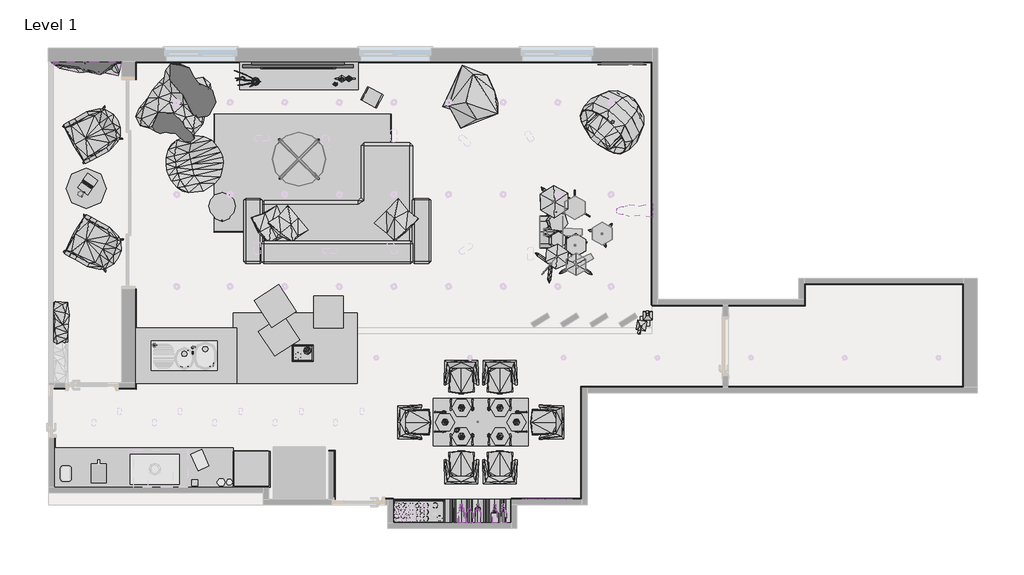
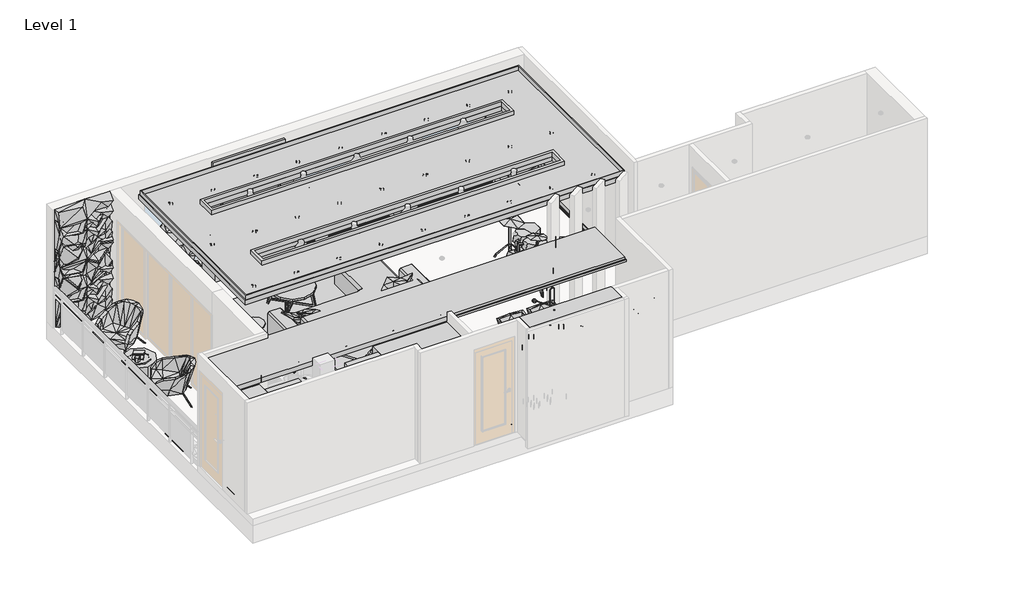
# One storey, part 3 of 3: 91 geographic elements, 5 proxies.
"""IFC4 building model written with IfcOpenShell, lengths in millimetres."""

from ifc_helpers import new_model, si_unit, origin, place, context, project, spatial, transform, mapped, element, save
from components import generic_models_dc2893ee, generic_models_1_generic_models_1_19b766ac, generic_models_2_generic_models_2_30429d09, generic_models_3_generic_models_3_4cce19c5, generic_models_4_generic_models_4_03122b29, generic_models_4_generic_models_4_c4c8f049, geographic_element_b0080944, geographic_element_7c65a5d7, geographic_element_9f73c0b1, geographic_element_5908e057, geographic_element_2652b80d, geographic_element_6bdd7eda, geographic_element_8d8a67f7, geographic_element_9b245b1b, geographic_element_af767891, geographic_element_8b343528, geographic_element_de8e18e4, geographic_element_906ff1fe, geographic_element_56111ee9, geographic_element_a9c4541f, geographic_element_ae85cb65, geographic_element_bdc61dde, geographic_element_5743c0c4, enscape_assetdefinition_armchair_040_enscape_assetdefinition_4bf14610, enscape_assetdefinition_armchair_052_outdoor_enscape_f294b56b, enscape_assetdefinition_armchair_052_outdoor_enscape_d5c26a59, enscape_assetdefinition_armchair_053_enscape_assetdefinition_fb0e28e1, enscape_assetdefinition_book_013_open_enscape_fd92b1af, enscape_assetdefinition_bottle_005_wine_enscape_f84a86c7, enscape_assetdefinition_bottle_006_wine_enscape_f008a982, enscape_assetdefinition_bottle_007_enscape_assetdefinition_5efa946b, enscape_assetdefinition_bottle_009_enscape_assetdefinition_91462ea6, enscape_assetdefinition_bottle_010_enscape_assetdefinition_ed5744ff, enscape_assetdefinition_chair_034_enscape_assetdefinition_23db250a, enscape_assetdefinition_chair_034_enscape_assetdefinition_81589c5b, enscape_assetdefinition_cup_002_coffee_enscape_aa947409, enscape_assetdefinition_faucet_005_enscape_assetdefinition_79bf5e93, enscape_assetdefinition_food_029_pizza_box_enscape_38934f0b, enscape_assetdefinition_high_stool_015_enscape_db5fdf95, enscape_assetdefinition_instrument_003_drum_set_enscape_302b556b, enscape_assetdefinition_napkin_001_folded_enscape_1bf4be49, enscape_assetdefinition_napkin_001_folded_enscape_e3453064, enscape_assetdefinition_pendant_lamp_017_enscape_30fa210a, enscape_assetdefinition_photo_grid_001_enscape_8e951b4d, enscape_assetdefinition_plate_002_flat_enscape_c81c6526, enscape_assetdefinition_plate_002_flat_enscape_671f95ad, enscape_assetdefinition_rug_008_enscape_assetdefinition_rug_9687f430, enscape_assetdefinition_sideboard_029_enscape_7678e0aa, enscape_assetdefinition_soap_dispenser_004_enscape_f50e4718, enscape_assetdefinition_sofa_021_enscape_assetdefinition_05d71fce, enscape_assetdefinition_speaker_010_enscape_assetdefinition_e37c3e36, enscape_assetdefinition_table_006_enscape_assetdefinition_bb6dfc44, enscape_assetdefinition_table_038_enscape_assetdefinition_902f3cf7, enscape_assetdefinition_table_053_outdoor_enscape_c4f458b2, enscape_assetdefinition_table_060_enscape_assetdefinition_db9969bd

model = new_model("IFC4")

# Units and contexts
model_context = context("Model", 3, world=origin())
ifc_project = project(units=[si_unit("LENGTHUNIT", "METRE", prefix="MILLI")], contexts=[model_context])

# Site, building, storey
site = spatial("IfcSite", under=ifc_project)
building = spatial("IfcBuilding", under=site)
storey = spatial("IfcBuildingStorey", under=building, Name="Level 1", Elevation=0.0)

# Proxies
placement = place(None, origin())
generic_models_shape = generic_models_dc2893ee(model_context)
element("IfcBuildingElementProxy", 1, Name="Samsung_C8000_UN55C8000_55_3D_LED_10171 : Samsung_C8000_UN55C8000_55_3D_LED_10171", ObjectType="Samsung_C8000_UN55C8000_55_3D_LED_10171 : Samsung_C8000_UN55C8000_55_3D_LED_10171", at=placement, inside=storey, context=model_context, shape_type="MappedRepresentation", body=[
    mapped(generic_models_shape, transform((-3725.6825303, 4855.5879527, 1050.0), x_axis=(1.0, 0.0, 0.0), y_axis=(0.0, 1.0, 0.0), z_axis=(0.0, 0.0, 1.0))),
])
generic_models_1_generic_models_1_shape = generic_models_1_generic_models_1_19b766ac(model_context)
element("IfcBuildingElementProxy", 2, Name="Generic Models 1 : Generic Models 1", ObjectType="Generic Models 1 : Generic Models 1", at=placement, inside=storey, context=model_context, shape_type="MappedRepresentation", body=[
    mapped(generic_models_1_generic_models_1_shape, transform((0.0, 0.0, 0.0), x_axis=(1.0, 0.0, 0.0), y_axis=(0.0, 1.0, 0.0), z_axis=(0.0, 0.0, 1.0))),
])
generic_models_2_generic_models_2_shape = generic_models_2_generic_models_2_30429d09(model_context)
element("IfcBuildingElementProxy", 3, Name="Generic Models 2 : Generic Models 2", ObjectType="Generic Models 2 : Generic Models 2", at=placement, inside=storey, context=model_context, shape_type="MappedRepresentation", body=[
    mapped(generic_models_2_generic_models_2_shape, transform((0.0, 0.0, 0.0), x_axis=(1.0, 0.0, 0.0), y_axis=(0.0, 1.0, 0.0), z_axis=(0.0, 0.0, 1.0))),
])
generic_models_3_generic_models_3_shape = generic_models_3_generic_models_3_4cce19c5(model_context)
element("IfcBuildingElementProxy", 4, Name="Generic Models 3 : Generic Models 3", ObjectType="Generic Models 3 : Generic Models 3", at=placement, inside=storey, context=model_context, shape_type="MappedRepresentation", body=[
    mapped(generic_models_3_generic_models_3_shape, transform((0.0, 0.0, 0.0), x_axis=(1.0, 0.0, 0.0), y_axis=(0.0, 1.0, 0.0), z_axis=(0.0, 0.0, 1.0))),
])
generic_models_4_generic_models_4_shape = generic_models_4_generic_models_4_03122b29(model_context)
generic_models_4_generic_models_4_2_shape = generic_models_4_generic_models_4_c4c8f049(model_context)
element("IfcBuildingElementProxy", 5, Name="Generic Models 4 : Generic Models 4", ObjectType="Generic Models 4 : Generic Models 4", at=placement, inside=storey, context=model_context, shape_type="MappedRepresentation", body=[
    mapped(generic_models_4_generic_models_4_shape, transform((0.0, 0.0, 0.0), x_axis=(1.0, 0.0, 0.0), y_axis=(0.0, 1.0, 0.0), z_axis=(0.0, 0.0, 1.0))),
    mapped(generic_models_4_generic_models_4_2_shape, transform((0.0, 0.0, 0.0), x_axis=(1.0, 0.0, 0.0), y_axis=(0.0, 1.0, 0.0), z_axis=(0.0, 0.0, 1.0))),
])

# Geographic elements
geographic_element_shape = geographic_element_b0080944(model_context)
element("IfcGeographicElement", 6, ObjectType="Enscape AssetDefinition - Unicorn Papertrophy : Enscape AssetDefinition - Unicorn Papertrophy", at=placement, inside=storey, context=model_context, shape_type="MappedRepresentation", body=[
    mapped(geographic_element_shape, transform((2263.5553875, 2435.593125, 1868.1129217), x_axis=(0.0, -1.0, 0.0), y_axis=(1.0, 0.0, 0.0), z_axis=(0.0, 0.0, 1.0))),
])
geographic_element_2_shape = geographic_element_7c65a5d7(model_context)
element("IfcGeographicElement", 7, ObjectType="Enscape AssetDefinition - Candle Tray 002 : Enscape AssetDefinition - Candle Tray 002", at=placement, inside=storey, context=model_context, shape_type="MappedRepresentation", body=[
    mapped(geographic_element_2_shape, transform((-3643.9899912, 23.2295601, 750.0), x_axis=(1.0, 0.0, 0.0), y_axis=(0.0, 1.0, 0.0), z_axis=(0.0, 0.0, 1.0))),
])
geographic_element_3_shape = geographic_element_9f73c0b1(model_context)
element("IfcGeographicElement", 8, ObjectType="Enscape AssetDefinition - Cutlery 004 Spoon : Enscape AssetDefinition - Cutlery 004 Spoon", at=placement, inside=storey, context=model_context, shape_type="MappedRepresentation", body=[
    mapped(geographic_element_3_shape, transform((-778.7414771, -1435.411455, 720.0), x_axis=(1.0, 0.0, 0.0), y_axis=(0.0, 1.0, 0.0), z_axis=(0.0, 0.0, 1.0))),
])
element("IfcGeographicElement", 9, ObjectType="Enscape AssetDefinition - Cutlery 004 Spoon : Enscape AssetDefinition - Cutlery 004 Spoon", at=placement, inside=storey, context=model_context, shape_type="MappedRepresentation", body=[
    mapped(geographic_element_3_shape, transform((-500.1189324, -851.7479681, 720.0), x_axis=(-1.0, 0.0, 0.0), y_axis=(0.0, -1.0, 0.0), z_axis=(0.0, 0.0, 1.0))),
])
element("IfcGeographicElement", 10, ObjectType="Enscape AssetDefinition - Cutlery 004 Spoon : Enscape AssetDefinition - Cutlery 004 Spoon", at=placement, inside=storey, context=model_context, shape_type="MappedRepresentation", body=[
    mapped(geographic_element_3_shape, transform((-1324.9476874, -974.0471901, 720.0), x_axis=(0.0, -1.0, 0.0), y_axis=(1.0, 0.0, 0.0), z_axis=(0.0, 0.0, 1.0))),
])
geographic_element_4_shape = geographic_element_5908e057(model_context)
element("IfcGeographicElement", 11, ObjectType="Enscape AssetDefinition - Cutlery 001 Fork : Enscape AssetDefinition - Cutlery 001 Fork", at=placement, inside=storey, context=model_context, shape_type="MappedRepresentation", body=[
    mapped(geographic_element_4_shape, transform((-1142.4476874, -1440.411455, 720.0), x_axis=(1.0, 0.0, 0.0), y_axis=(0.0, 1.0, 0.0), z_axis=(0.0, 0.0, 1.0))),
])
element("IfcGeographicElement", 12, ObjectType="Enscape AssetDefinition - Cutlery 001 Fork : Enscape AssetDefinition - Cutlery 001 Fork", at=placement, inside=storey, context=model_context, shape_type="MappedRepresentation", body=[
    mapped(geographic_element_4_shape, transform((-136.4127221, -846.7479681, 720.0), x_axis=(-1.0, 0.0, 0.0), y_axis=(0.0, -1.0, 0.0), z_axis=(0.0, 0.0, 1.0))),
])
element("IfcGeographicElement", 13, ObjectType="Enscape AssetDefinition - Cutlery 001 Fork : Enscape AssetDefinition - Cutlery 001 Fork", at=placement, inside=storey, context=model_context, shape_type="MappedRepresentation", body=[
    mapped(geographic_element_4_shape, transform((-1324.9476874, -1303.4525616, 720.0), x_axis=(0.0, -1.0, 0.0), y_axis=(1.0, 0.0, 0.0), z_axis=(0.0, 0.0, 1.0))),
])
geographic_element_5_shape = geographic_element_2652b80d(model_context)
element("IfcGeographicElement", 14, ObjectType="Enscape AssetDefinition - Decorative Goods 018 Swallow Birds : Enscape AssetDefinition - Decorative Goods 018 Swallow Birds", at=placement, inside=storey, context=model_context, shape_type="MappedRepresentation", body=[
    mapped(geographic_element_5_shape, transform((706.0100088, -2449.0471901, 1565.749496), x_axis=(-1.0, 0.0, 0.0), y_axis=(0.0, -1.0, 0.0), z_axis=(0.0, 0.0, 1.0))),
])
geographic_element_6_shape = geographic_element_6bdd7eda(model_context)
element("IfcGeographicElement", 15, ObjectType="Enscape AssetDefinition - Decorative Goods 018 Swallow Birds : Enscape AssetDefinition - Decorative Goods 018 Swallow Birds 2", at=placement, inside=storey, context=model_context, shape_type="MappedRepresentation", body=[
    mapped(geographic_element_6_shape, transform((326.0100088, -2449.0471901, 1241.461939), x_axis=(-1.0, 0.0, 0.0), y_axis=(0.0, -1.0, 0.0), z_axis=(0.0, 0.0, 1.0))),
])
geographic_element_7_shape = geographic_element_8d8a67f7(model_context)
element("IfcGeographicElement", 16, ObjectType="Enscape AssetDefinition - Cutlery 004 Spoon : Enscape AssetDefinition - Cutlery 004 Spoon", at=placement, inside=storey, context=model_context, shape_type="MappedRepresentation", body=[
    mapped(geographic_element_7_shape, transform((-500.1189324, -1435.411455, 720.0), x_axis=(-1.0, 0.0, 0.0), y_axis=(0.0, -1.0, 0.0), z_axis=(0.0, 0.0, 1.0))),
])
element("IfcGeographicElement", 17, ObjectType="Enscape AssetDefinition - Cutlery 004 Spoon : Enscape AssetDefinition - Cutlery 004 Spoon", at=placement, inside=storey, context=model_context, shape_type="MappedRepresentation", body=[
    mapped(geographic_element_7_shape, transform((-778.7414771, -851.7479681, 720.0), x_axis=(1.0, 0.0, 0.0), y_axis=(0.0, 1.0, 0.0), z_axis=(0.0, 0.0, 1.0))),
])
element("IfcGeographicElement", 18, ObjectType="Enscape AssetDefinition - Cutlery 004 Spoon : Enscape AssetDefinition - Cutlery 004 Spoon", at=placement, inside=storey, context=model_context, shape_type="MappedRepresentation", body=[
    mapped(geographic_element_7_shape, transform((46.0872779, -974.0471901, 720.0), x_axis=(0.0, -1.0, 0.0), y_axis=(1.0, 0.0, 0.0), z_axis=(0.0, 0.0, 1.0))),
])
geographic_element_8_shape = geographic_element_9b245b1b(model_context)
element("IfcGeographicElement", 19, ObjectType="Enscape AssetDefinition - Cutlery 001 Fork : Enscape AssetDefinition - Cutlery 001 Fork", at=placement, inside=storey, context=model_context, shape_type="MappedRepresentation", body=[
    mapped(geographic_element_8_shape, transform((-136.4127221, -1440.411455, 720.0), x_axis=(-1.0, 0.0, 0.0), y_axis=(0.0, -1.0, 0.0), z_axis=(0.0, 0.0, 1.0))),
])
element("IfcGeographicElement", 20, ObjectType="Enscape AssetDefinition - Cutlery 001 Fork : Enscape AssetDefinition - Cutlery 001 Fork", at=placement, inside=storey, context=model_context, shape_type="MappedRepresentation", body=[
    mapped(geographic_element_8_shape, transform((-1142.4476874, -846.7479681, 720.0), x_axis=(1.0, 0.0, 0.0), y_axis=(0.0, 1.0, 0.0), z_axis=(0.0, 0.0, 1.0))),
])
element("IfcGeographicElement", 21, ObjectType="Enscape AssetDefinition - Cutlery 001 Fork : Enscape AssetDefinition - Cutlery 001 Fork", at=placement, inside=storey, context=model_context, shape_type="MappedRepresentation", body=[
    mapped(geographic_element_8_shape, transform((46.0872779, -1303.4525616, 720.0), x_axis=(0.0, -1.0, 0.0), y_axis=(1.0, 0.0, 0.0), z_axis=(0.0, 0.0, 1.0))),
])
geographic_element_9_shape = geographic_element_af767891(model_context)
element("IfcGeographicElement", 22, ObjectType="Enscape AssetDefinition - Potted Plant 009 Mango Tree : Enscape AssetDefinition - Potted Plant 009 Mango Tree", at=placement, inside=storey, context=model_context, shape_type="MappedRepresentation", body=[
    mapped(geographic_element_9_shape, transform((-778.7414771, 4431.3550707, -150.0), x_axis=(1.0, 0.0, 0.0), y_axis=(0.0, 1.0, 0.0), z_axis=(0.0, 0.0, 1.0))),
])
geographic_element_10_shape = geographic_element_8b343528(model_context)
element("IfcGeographicElement", 23, ObjectType="Enscape AssetDefinition - Potted Plant 028 Peace Lily : Enscape AssetDefinition - Potted Plant 028 Peace Lily", at=placement, inside=storey, context=model_context, shape_type="MappedRepresentation", body=[
    mapped(geographic_element_10_shape, transform((-5710.3506851, 4241.7460502, -150.0), x_axis=(1.0, 0.0, 0.0), y_axis=(0.0, 1.0, 0.0), z_axis=(0.0, 0.0, 1.0))),
])
geographic_element_11_shape = geographic_element_de8e18e4(model_context)
element("IfcGeographicElement", 24, ObjectType="Enscape AssetDefinition - Decorative Goods 012 Cats : Enscape AssetDefinition - Decorative Goods 012 Cats", at=placement, inside=storey, context=model_context, shape_type="MappedRepresentation", body=[
    mapped(geographic_element_11_shape, transform((-2928.0997155, 4665.5879527, 400.0), x_axis=(1.0, 0.0, 0.0), y_axis=(0.0, 1.0, 0.0), z_axis=(0.0, 0.0, 1.0))),
])
geographic_element_12_shape = geographic_element_906ff1fe(model_context)
element("IfcGeographicElement", 25, ObjectType="Enscape AssetDefinition - Decorative Goods 030 Room Fragrance : Enscape AssetDefinition - Decorative Goods 030 Room Fragrance", at=placement, inside=storey, context=model_context, shape_type="MappedRepresentation", body=[
    mapped(geographic_element_12_shape, transform((-3091.1080184, 4570.5879527, 400.0), x_axis=(1.0, 0.0, 0.0), y_axis=(0.0, 1.0, 0.0), z_axis=(0.0, 0.0, 1.0))),
])
geographic_element_13_shape = geographic_element_56111ee9(model_context)
element("IfcGeographicElement", 26, ObjectType="Enscape AssetDefinition - Vase 002 Eucalyptus : Enscape AssetDefinition - Vase 002 Eucalyptus", at=placement, inside=storey, context=model_context, shape_type="MappedRepresentation", body=[
    mapped(geographic_element_13_shape, transform((-4444.8250642, 4620.5879527, 400.0), x_axis=(-1.0, 0.0, 0.0), y_axis=(0.0, -1.0, 0.0), z_axis=(0.0, 0.0, 1.0))),
])
geographic_element_14_shape = geographic_element_a9c4541f(model_context)
element("IfcGeographicElement", 27, ObjectType="Enscape AssetDefinition - Green Wall 001 English Laurel : Enscape AssetDefinition - Green Wall 001 English Laurel", at=placement, inside=storey, context=model_context, shape_type="MappedRepresentation", body=[
    mapped(geographic_element_14_shape, transform((-7304.8250642, 4955.5879527, 1350.3144574), x_axis=(1.0, 0.0, 0.0), y_axis=(0.0, 1.0, 0.0), z_axis=(0.0, 0.0, 1.0))),
])
element("IfcGeographicElement", 28, ObjectType="Enscape AssetDefinition - Green Wall 001 English Laurel : Enscape AssetDefinition - Green Wall 001 English Laurel", at=placement, inside=storey, context=model_context, shape_type="MappedRepresentation", body=[
    mapped(geographic_element_14_shape, transform((-7304.8250642, 4955.5879527, 450.3144574), x_axis=(1.0, 0.0, 0.0), y_axis=(0.0, 1.0, 0.0), z_axis=(0.0, 0.0, 1.0))),
])
element("IfcGeographicElement", 29, ObjectType="Enscape AssetDefinition - Green Wall 001 English Laurel : Enscape AssetDefinition - Green Wall 001 English Laurel", at=placement, inside=storey, context=model_context, shape_type="MappedRepresentation", body=[
    mapped(geographic_element_14_shape, transform((-7304.8250642, 4955.5879527, -189.6855426), x_axis=(1.0, 0.0, 0.0), y_axis=(0.0, 1.0, 0.0), z_axis=(0.0, 0.0, 1.0))),
])
element("IfcGeographicElement", 30, ObjectType="Enscape AssetDefinition - Green Wall 001 English Laurel : Enscape AssetDefinition - Green Wall 001 English Laurel", at=placement, inside=storey, context=model_context, shape_type="MappedRepresentation", body=[
    mapped(geographic_element_14_shape, transform((-7304.8250642, 4955.5879527, 1110.3144574), x_axis=(1.0, 0.0, 0.0), y_axis=(0.0, 1.0, 0.0), z_axis=(0.0, 0.0, 1.0))),
])
element("IfcGeographicElement", 31, ObjectType="Enscape AssetDefinition - Green Wall 001 English Laurel : Enscape AssetDefinition - Green Wall 001 English Laurel", at=placement, inside=storey, context=model_context, shape_type="MappedRepresentation", body=[
    mapped(geographic_element_14_shape, transform((-7304.8250642, 4955.5879527, 390.3144574), x_axis=(1.0, 0.0, 0.0), y_axis=(0.0, 1.0, 0.0), z_axis=(0.0, 0.0, 1.0))),
])
element("IfcGeographicElement", 32, ObjectType="Enscape AssetDefinition - Green Wall 001 English Laurel : Enscape AssetDefinition - Green Wall 001 English Laurel", at=placement, inside=storey, context=model_context, shape_type="MappedRepresentation", body=[
    mapped(geographic_element_14_shape, transform((-7304.8250642, 4955.5879527, -429.6855426), x_axis=(1.0, 0.0, 0.0), y_axis=(0.0, 1.0, 0.0), z_axis=(0.0, 0.0, 1.0))),
])
geographic_element_15_shape = geographic_element_ae85cb65(model_context)
element("IfcGeographicElement", 33, ObjectType="Enscape AssetDefinition - Bowl 007 Strawberry : Enscape AssetDefinition - Bowl 007 Strawberry", at=placement, inside=storey, context=model_context, shape_type="MappedRepresentation", body=[
    mapped(geographic_element_15_shape, transform((-3208.1177831, 553.2122382, 750.0), x_axis=(1.0, 0.0, 0.0), y_axis=(0.0, 1.0, 0.0), z_axis=(0.0, 0.0, 1.0))),
])
geographic_element_16_shape = geographic_element_bdc61dde(model_context)
element("IfcGeographicElement", 34, ObjectType="Enscape AssetDefinition - Potted Plant 099 Geranium Planter : Enscape AssetDefinition - Potted Plant 099 Geranium Planter", at=placement, inside=storey, context=model_context, shape_type="MappedRepresentation", body=[
    mapped(geographic_element_16_shape, transform((-7753.5491004, 539.3293876, -150.0), x_axis=(0.0, -1.0, 0.0), y_axis=(1.0, 0.0, 0.0), z_axis=(0.0, 0.0, 1.0))),
])
geographic_element_17_shape = geographic_element_5743c0c4(model_context)
element("IfcGeographicElement", 35, ObjectType="Enscape AssetDefinition - Umbrella Holder 001 : Enscape AssetDefinition - Umbrella Holder 001", at=placement, inside=storey, context=model_context, shape_type="MappedRepresentation", body=[
    mapped(geographic_element_17_shape, transform((2140.1720666, 566.2824486, -150.0), x_axis=(1.0, 0.0, 0.0), y_axis=(0.0, 1.0, 0.0), z_axis=(0.0, 0.0, 1.0))),
])
enscape_assetdefinition_armchair_040_enscape_assetdefinition_shape = enscape_assetdefinition_armchair_040_enscape_assetdefinition_4bf14610(model_context)
element("IfcGeographicElement", 36, ObjectType="Enscape AssetDefinition - Armchair 040 : Enscape AssetDefinition - Armchair 040", at=placement, inside=storey, context=model_context, shape_type="MappedRepresentation", body=[
    mapped(enscape_assetdefinition_armchair_040_enscape_assetdefinition_shape, transform((-5469.8250642, 3230.5879527, -150.0), x_axis=(-0.2235639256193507, 0.9746892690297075, 0.0), y_axis=(-0.9746892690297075, -0.2235639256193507, 0.0), z_axis=(0.0, 0.0, 1.0))),
])
enscape_assetdefinition_armchair_052_outdoor_enscape_shape = enscape_assetdefinition_armchair_052_outdoor_enscape_f294b56b(model_context)
element("IfcGeographicElement", 37, ObjectType="Enscape AssetDefinition - Armchair 052 Outdoor : Enscape AssetDefinition - Armchair 052 Outdoor", at=placement, inside=storey, context=model_context, shape_type="MappedRepresentation", body=[
    mapped(enscape_assetdefinition_armchair_052_outdoor_enscape_shape, transform((-7209.4839164, 3720.844669, -150.0), x_axis=(0.48480962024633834, -0.8746197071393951, 0.0), y_axis=(0.8746197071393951, 0.48480962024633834, 0.0), z_axis=(0.0, 0.0, 1.0))),
])
enscape_assetdefinition_armchair_052_outdoor_enscape_2_shape = enscape_assetdefinition_armchair_052_outdoor_enscape_d5c26a59(model_context)
element("IfcGeographicElement", 38, ObjectType="Enscape AssetDefinition - Armchair 052 Outdoor : Enscape AssetDefinition - Armchair 052 Outdoor", at=placement, inside=storey, context=model_context, shape_type="MappedRepresentation", body=[
    mapped(enscape_assetdefinition_armchair_052_outdoor_enscape_2_shape, transform((-7197.1722471, 1878.4382491, -150.0), x_axis=(0.48480962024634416, 0.8746197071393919, 0.0), y_axis=(-0.8746197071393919, 0.48480962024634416, 0.0), z_axis=(0.0, 0.0, 1.0))),
])
enscape_assetdefinition_armchair_053_enscape_assetdefinition_shape = enscape_assetdefinition_armchair_053_enscape_assetdefinition_fb0e28e1(model_context)
element("IfcGeographicElement", 39, ObjectType="Enscape AssetDefinition - Armchair 053 : Enscape AssetDefinition - Armchair 053", at=placement, inside=storey, context=model_context, shape_type="MappedRepresentation", body=[
    mapped(enscape_assetdefinition_armchair_053_enscape_assetdefinition_shape, transform((1589.7384878, 3934.1393956, 2350.0), x_axis=(0.7212263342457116, -0.6926994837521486, 0.0), y_axis=(0.6926994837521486, 0.7212263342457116, 0.0), z_axis=(0.0, 0.0, 1.0))),
])
enscape_assetdefinition_book_013_open_enscape_shape = enscape_assetdefinition_book_013_open_enscape_fd92b1af(model_context)
element("IfcGeographicElement", 40, ObjectType="Enscape AssetDefinition - Book 013 Open : Enscape AssetDefinition - Book 013 Open", at=placement, inside=storey, context=model_context, shape_type="MappedRepresentation", body=[
    mapped(enscape_assetdefinition_book_013_open_enscape_shape, transform((-7280.8087459, 2883.2721471, 250.7), x_axis=(0.5768810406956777, 0.8168281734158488, 0.0), y_axis=(-0.8168281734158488, 0.5768810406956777, 0.0), z_axis=(0.0, 0.0, 1.0))),
])
enscape_assetdefinition_bottle_005_wine_enscape_shape = enscape_assetdefinition_bottle_005_wine_enscape_f84a86c7(model_context)
element("IfcGeographicElement", 41, ObjectType="Enscape AssetDefinition - Bottle 005 Wine : Enscape AssetDefinition - Bottle 005 Wine", at=placement, inside=storey, context=model_context, shape_type="MappedRepresentation", body=[
    mapped(enscape_assetdefinition_bottle_005_wine_enscape_shape, transform((-966.8647247, -2849.0471901, 1654.9961457), x_axis=(1.0, 0.0, 0.0), y_axis=(0.0, 0.0, -1.0), z_axis=(0.0, 1.0, 0.0))),
])
element("IfcGeographicElement", 42, ObjectType="Enscape AssetDefinition - Bottle 005 Wine : Enscape AssetDefinition - Bottle 005 Wine", at=placement, inside=storey, context=model_context, shape_type="MappedRepresentation", body=[
    mapped(enscape_assetdefinition_bottle_005_wine_enscape_shape, transform((-401.7648667, -2849.0471901, 1371.501185), x_axis=(1.0, 0.0, 0.0), y_axis=(0.0, 0.0, -1.0), z_axis=(0.0, 1.0, 0.0))),
])
element("IfcGeographicElement", 43, ObjectType="Enscape AssetDefinition - Bottle 005 Wine : Enscape AssetDefinition - Bottle 005 Wine", at=placement, inside=storey, context=model_context, shape_type="MappedRepresentation", body=[
    mapped(enscape_assetdefinition_bottle_005_wine_enscape_shape, transform((-544.6503189, -2849.0471901, 948.5321996), x_axis=(1.0, 0.0, 0.0), y_axis=(0.0, 0.0, -1.0), z_axis=(0.0, 1.0, 0.0))),
])
element("IfcGeographicElement", 44, ObjectType="Enscape AssetDefinition - Bottle 005 Wine : Enscape AssetDefinition - Bottle 005 Wine", at=placement, inside=storey, context=model_context, shape_type="MappedRepresentation", body=[
    mapped(enscape_assetdefinition_bottle_005_wine_enscape_shape, transform((-258.9899912, -2849.0471901, 947.1802909), x_axis=(1.0, 0.0, 0.0), y_axis=(0.0, 0.0, -1.0), z_axis=(0.0, 1.0, 0.0))),
])
element("IfcGeographicElement", 45, ObjectType="Enscape AssetDefinition - Bottle 005 Wine : Enscape AssetDefinition - Bottle 005 Wine", at=placement, inside=storey, context=model_context, shape_type="MappedRepresentation", body=[
    mapped(enscape_assetdefinition_bottle_005_wine_enscape_shape, transform((-685.679136, -2849.0471901, 1652.7019983), x_axis=(1.0, 0.0, 0.0), y_axis=(0.0, 0.0, -1.0), z_axis=(0.0, 1.0, 0.0))),
])
element("IfcGeographicElement", 46, ObjectType="Enscape AssetDefinition - Bottle 005 Wine : Enscape AssetDefinition - Bottle 005 Wine", at=placement, inside=storey, context=model_context, shape_type="MappedRepresentation", body=[
    mapped(enscape_assetdefinition_bottle_005_wine_enscape_shape, transform((-403.9899912, -2849.0471901, 1933.332242), x_axis=(1.0, 0.0, 0.0), y_axis=(0.0, 0.0, -1.0), z_axis=(0.0, 1.0, 0.0))),
])
enscape_assetdefinition_bottle_006_wine_enscape_shape = enscape_assetdefinition_bottle_006_wine_enscape_f008a982(model_context)
element("IfcGeographicElement", 47, ObjectType="Enscape AssetDefinition - Bottle 006 Wine : Enscape AssetDefinition - Bottle 006 Wine", at=placement, inside=storey, context=model_context, shape_type="MappedRepresentation", body=[
    mapped(enscape_assetdefinition_bottle_006_wine_enscape_shape, transform((-684.7442867, -2849.0471901, 1373.2927249), x_axis=(1.0, 0.0, 0.0), y_axis=(0.0, 0.0, -1.0), z_axis=(0.0, 1.0, 0.0))),
])
element("IfcGeographicElement", 48, ObjectType="Enscape AssetDefinition - Bottle 006 Wine : Enscape AssetDefinition - Bottle 006 Wine", at=placement, inside=storey, context=model_context, shape_type="MappedRepresentation", body=[
    mapped(enscape_assetdefinition_bottle_006_wine_enscape_shape, transform((-825.2399912, -2849.0471901, 948.1439768), x_axis=(1.0, 0.0, 0.0), y_axis=(0.0, 0.0, -1.0), z_axis=(0.0, 1.0, 0.0))),
])
element("IfcGeographicElement", 49, ObjectType="Enscape AssetDefinition - Bottle 006 Wine : Enscape AssetDefinition - Bottle 006 Wine", at=placement, inside=storey, context=model_context, shape_type="MappedRepresentation", body=[
    mapped(enscape_assetdefinition_bottle_006_wine_enscape_shape, transform((-403.9899912, -2849.0471901, 809.5809135), x_axis=(1.0, 0.0, 0.0), y_axis=(0.0, 0.0, -1.0), z_axis=(0.0, 1.0, 0.0))),
])
enscape_assetdefinition_bottle_007_enscape_assetdefinition_shape = enscape_assetdefinition_bottle_007_enscape_assetdefinition_5efa946b(model_context)
element("IfcGeographicElement", 50, ObjectType="Enscape AssetDefinition - Bottle 007 : Enscape AssetDefinition - Bottle 007", at=placement, inside=storey, context=model_context, shape_type="MappedRepresentation", body=[
    mapped(enscape_assetdefinition_bottle_007_enscape_assetdefinition_shape, transform((-689.0928398, -2849.0471901, 815.6905332), x_axis=(1.0, 0.0, 0.0), y_axis=(0.0, 0.0, -1.0), z_axis=(0.0, 1.0, 0.0))),
])
element("IfcGeographicElement", 51, ObjectType="Enscape AssetDefinition - Bottle 007 : Enscape AssetDefinition - Bottle 007", at=placement, inside=storey, context=model_context, shape_type="MappedRepresentation", body=[
    mapped(enscape_assetdefinition_bottle_007_enscape_assetdefinition_shape, transform((-686.1189888, -2849.0471901, 1099.8610682), x_axis=(-1.0, 0.0, 0.0), y_axis=(0.0, 0.0, 1.0), z_axis=(0.0, 1.0, 0.0))),
])
element("IfcGeographicElement", 52, ObjectType="Enscape AssetDefinition - Bottle 007 : Enscape AssetDefinition - Bottle 007", at=placement, inside=storey, context=model_context, shape_type="MappedRepresentation", body=[
    mapped(enscape_assetdefinition_bottle_007_enscape_assetdefinition_shape, transform((-968.9899912, -2849.0471901, 1942.7777111), x_axis=(1.0, 0.0, 0.0), y_axis=(0.0, 0.0, -1.0), z_axis=(0.0, 1.0, 0.0))),
])
enscape_assetdefinition_bottle_009_enscape_assetdefinition_shape = enscape_assetdefinition_bottle_009_enscape_assetdefinition_91462ea6(model_context)
element("IfcGeographicElement", 53, ObjectType="Enscape AssetDefinition - Bottle 009 : Enscape AssetDefinition - Bottle 009", at=placement, inside=storey, context=model_context, shape_type="MappedRepresentation", body=[
    mapped(enscape_assetdefinition_bottle_009_enscape_assetdefinition_shape, transform((-402.0088814, -2849.0471901, 1126.4700058), x_axis=(1.0, 0.0, 0.0), y_axis=(0.0, 0.0, -1.0), z_axis=(0.0, 1.0, 0.0))),
])
element("IfcGeographicElement", 54, ObjectType="Enscape AssetDefinition - Bottle 009 : Enscape AssetDefinition - Bottle 009", at=placement, inside=storey, context=model_context, shape_type="MappedRepresentation", body=[
    mapped(enscape_assetdefinition_bottle_009_enscape_assetdefinition_shape, transform((-967.6943063, -2849.0471901, 1409.3127182), x_axis=(1.0, 0.0, 0.0), y_axis=(0.0, 0.0, -1.0), z_axis=(0.0, 1.0, 0.0))),
])
element("IfcGeographicElement", 55, ObjectType="Enscape AssetDefinition - Bottle 009 : Enscape AssetDefinition - Bottle 009", at=placement, inside=storey, context=model_context, shape_type="MappedRepresentation", body=[
    mapped(enscape_assetdefinition_bottle_009_enscape_assetdefinition_shape, transform((-260.5875251, -2849.0471901, 1550.7340745), x_axis=(1.0, 0.0, 0.0), y_axis=(0.0, 0.0, -1.0), z_axis=(0.0, 1.0, 0.0))),
])
element("IfcGeographicElement", 56, ObjectType="Enscape AssetDefinition - Bottle 009 : Enscape AssetDefinition - Bottle 009", at=placement, inside=storey, context=model_context, shape_type="MappedRepresentation", body=[
    mapped(enscape_assetdefinition_bottle_009_enscape_assetdefinition_shape, transform((-826.2729501, -2849.0471901, 2116.4194994), x_axis=(1.0, 0.0, 0.0), y_axis=(0.0, 0.0, -1.0), z_axis=(0.0, 1.0, 0.0))),
])
enscape_assetdefinition_bottle_010_enscape_assetdefinition_shape = enscape_assetdefinition_bottle_010_enscape_assetdefinition_ed5744ff(model_context)
element("IfcGeographicElement", 57, ObjectType="Enscape AssetDefinition - Bottle 010 : Enscape AssetDefinition - Bottle 010", at=placement, inside=storey, context=model_context, shape_type="MappedRepresentation", body=[
    mapped(enscape_assetdefinition_bottle_010_enscape_assetdefinition_shape, transform((-826.667711, -2849.0471901, 1237.4575986), x_axis=(-1.0, 0.0, 0.0), y_axis=(0.0, 0.0, 1.0), z_axis=(0.0, 1.0, 0.0))),
])
element("IfcGeographicElement", 58, ObjectType="Enscape AssetDefinition - Bottle 010 : Enscape AssetDefinition - Bottle 010", at=placement, inside=storey, context=model_context, shape_type="MappedRepresentation", body=[
    mapped(enscape_assetdefinition_bottle_010_enscape_assetdefinition_shape, transform((-258.9899912, -2849.0471901, 1235.493482), x_axis=(1.0, 0.0, 0.0), y_axis=(0.0, 0.0, -1.0), z_axis=(0.0, 1.0, 0.0))),
])
element("IfcGeographicElement", 59, ObjectType="Enscape AssetDefinition - Bottle 010 : Enscape AssetDefinition - Bottle 010", at=placement, inside=storey, context=model_context, shape_type="MappedRepresentation", body=[
    mapped(enscape_assetdefinition_bottle_010_enscape_assetdefinition_shape, transform((-968.1059134, -2849.0471901, 805.7172996), x_axis=(1.0, 0.0, 0.0), y_axis=(0.0, 0.0, -1.0), z_axis=(0.0, 1.0, 0.0))),
])
element("IfcGeographicElement", 60, ObjectType="Enscape AssetDefinition - Bottle 010 : Enscape AssetDefinition - Bottle 010", at=placement, inside=storey, context=model_context, shape_type="MappedRepresentation", body=[
    mapped(enscape_assetdefinition_bottle_010_enscape_assetdefinition_shape, transform((-683.9899912, -2849.0471901, 1945.1971519), x_axis=(1.0, 0.0, 0.0), y_axis=(0.0, 0.0, -1.0), z_axis=(0.0, 1.0, 0.0))),
])
element("IfcGeographicElement", 61, ObjectType="Enscape AssetDefinition - Bottle 010 : Enscape AssetDefinition - Bottle 010", at=placement, inside=storey, context=model_context, shape_type="MappedRepresentation", body=[
    mapped(enscape_assetdefinition_bottle_010_enscape_assetdefinition_shape, transform((-403.9899912, -2849.0471901, 1666.1579807), x_axis=(1.0, 0.0, 0.0), y_axis=(0.0, 0.0, -1.0), z_axis=(0.0, 1.0, 0.0))),
])
enscape_assetdefinition_chair_034_enscape_assetdefinition_shape = enscape_assetdefinition_chair_034_enscape_assetdefinition_23db250a(model_context)
element("IfcGeographicElement", 62, ObjectType="Enscape AssetDefinition - Chair 034 : Enscape AssetDefinition - Chair 034", at=placement, inside=storey, context=model_context, shape_type="MappedRepresentation", body=[
    mapped(enscape_assetdefinition_chair_034_enscape_assetdefinition_shape, transform((470.0523126, -1143.5797115, 0.0), x_axis=(0.0, -1.0, 0.0), y_axis=(1.0, 0.0, 0.0), z_axis=(0.0, 0.0, 1.0))),
])
element("IfcGeographicElement", 63, ObjectType="Enscape AssetDefinition - Chair 034 : Enscape AssetDefinition - Chair 034", at=placement, inside=storey, context=model_context, shape_type="MappedRepresentation", body=[
    mapped(enscape_assetdefinition_chair_034_enscape_assetdefinition_shape, transform((-314.107275, -394.0471901, 0.0), x_axis=(1.0, 0.0, 0.0), y_axis=(0.0, 1.0, 0.0), z_axis=(0.0, 0.0, 1.0))),
])
element("IfcGeographicElement", 64, ObjectType="Enscape AssetDefinition - Chair 034 : Enscape AssetDefinition - Chair 034", at=placement, inside=storey, context=model_context, shape_type="MappedRepresentation", body=[
    mapped(enscape_assetdefinition_chair_034_enscape_assetdefinition_shape, transform((-964.7531345, -1893.112233, 0.0), x_axis=(-1.0, 0.0, 0.0), y_axis=(0.0, -1.0, 0.0), z_axis=(0.0, 0.0, 1.0))),
])
enscape_assetdefinition_chair_034_enscape_assetdefinition_2_shape = enscape_assetdefinition_chair_034_enscape_assetdefinition_81589c5b(model_context)
element("IfcGeographicElement", 65, ObjectType="Enscape AssetDefinition - Chair 034 : Enscape AssetDefinition - Chair 034", at=placement, inside=storey, context=model_context, shape_type="MappedRepresentation", body=[
    mapped(enscape_assetdefinition_chair_034_enscape_assetdefinition_2_shape, transform((-1748.9127221, -1143.5797115, 0.0), x_axis=(0.0, -1.0, 0.0), y_axis=(1.0, 0.0, 0.0), z_axis=(0.0, 0.0, 1.0))),
])
element("IfcGeographicElement", 66, ObjectType="Enscape AssetDefinition - Chair 034 : Enscape AssetDefinition - Chair 034", at=placement, inside=storey, context=model_context, shape_type="MappedRepresentation", body=[
    mapped(enscape_assetdefinition_chair_034_enscape_assetdefinition_2_shape, transform((-964.7531345, -394.0471901, 0.0), x_axis=(-1.0, 0.0, 0.0), y_axis=(0.0, -1.0, 0.0), z_axis=(0.0, 0.0, 1.0))),
])
element("IfcGeographicElement", 67, ObjectType="Enscape AssetDefinition - Chair 034 : Enscape AssetDefinition - Chair 034", at=placement, inside=storey, context=model_context, shape_type="MappedRepresentation", body=[
    mapped(enscape_assetdefinition_chair_034_enscape_assetdefinition_2_shape, transform((-314.107275, -1893.112233, 0.0), x_axis=(1.0, 0.0, 0.0), y_axis=(0.0, 1.0, 0.0), z_axis=(0.0, 0.0, 1.0))),
])
enscape_assetdefinition_cup_002_coffee_enscape_shape = enscape_assetdefinition_cup_002_coffee_enscape_aa947409(model_context)
element("IfcGeographicElement", 68, ObjectType="Enscape AssetDefinition - Cup 002 Coffee : Enscape AssetDefinition - Cup 002 Coffee", at=placement, inside=storey, context=model_context, shape_type="MappedRepresentation", body=[
    mapped(enscape_assetdefinition_cup_002_coffee_enscape_shape, transform((-7400.7023841, 2716.8947076, 250.6875), x_axis=(0.9271838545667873, 0.37460659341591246, 0.0), y_axis=(-0.37460659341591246, 0.9271838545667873, 0.0), z_axis=(0.0, 0.0, 1.0))),
])
enscape_assetdefinition_faucet_005_enscape_assetdefinition_shape = enscape_assetdefinition_faucet_005_enscape_assetdefinition_79bf5e93(model_context)
element("IfcGeographicElement", 69, ObjectType="Enscape AssetDefinition - Faucet 005 : Enscape AssetDefinition - Faucet 005", at=placement, inside=storey, context=model_context, shape_type="MappedRepresentation", body=[
    mapped(enscape_assetdefinition_faucet_005_enscape_assetdefinition_shape, transform((-5507.6571928, 119.0031504, 905.0), x_axis=(1.0, 0.0, 0.0), y_axis=(0.0, 1.0, 0.0), z_axis=(0.0, 0.0, 1.0))),
])
enscape_assetdefinition_food_029_pizza_box_enscape_shape = enscape_assetdefinition_food_029_pizza_box_enscape_38934f0b(model_context)
element("IfcGeographicElement", 70, ObjectType="Enscape AssetDefinition - Food 029 Pizza Box : Enscape AssetDefinition - Food 029 Pizza Box", at=placement, inside=storey, context=model_context, shape_type="MappedRepresentation", body=[
    mapped(enscape_assetdefinition_food_029_pizza_box_enscape_shape, transform((-4069.3017175, 305.4169515, 750.0), x_axis=(0.5446390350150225, -0.838670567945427, 0.0), y_axis=(0.838670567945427, 0.5446390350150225, 0.0), z_axis=(0.0, 0.0, 1.0))),
])
enscape_assetdefinition_high_stool_015_enscape_shape = enscape_assetdefinition_high_stool_015_enscape_db5fdf95(model_context)
element("IfcGeographicElement", 71, ObjectType="Enscape AssetDefinition - High Stool 015 : Enscape AssetDefinition - High Stool 015", at=placement, inside=storey, context=model_context, shape_type="MappedRepresentation", body=[
    mapped(enscape_assetdefinition_high_stool_015_enscape_shape, transform((-3209.7531345, 700.9631518, -150.0), x_axis=(1.0, 0.0, 0.0), y_axis=(0.0, 1.0, 0.0), z_axis=(0.0, 0.0, 1.0))),
])
element("IfcGeographicElement", 72, ObjectType="Enscape AssetDefinition - High Stool 015 : Enscape AssetDefinition - High Stool 015", at=placement, inside=storey, context=model_context, shape_type="MappedRepresentation", body=[
    mapped(enscape_assetdefinition_high_stool_015_enscape_shape, transform((-4099.3078512, 804.0574817, -150.0), x_axis=(0.8386705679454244, 0.5446390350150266, 0.0), y_axis=(-0.5446390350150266, 0.8386705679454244, 0.0), z_axis=(0.0, 0.0, 1.0))),
])
enscape_assetdefinition_instrument_003_drum_set_enscape_shape = enscape_assetdefinition_instrument_003_drum_set_enscape_302b556b(model_context)
element("IfcGeographicElement", 73, ObjectType="Enscape AssetDefinition - Instrument 003 Drum Set : Enscape AssetDefinition - Instrument 003 Drum Set", at=placement, inside=storey, context=model_context, shape_type="MappedRepresentation", body=[
    mapped(enscape_assetdefinition_instrument_003_drum_set_enscape_shape, transform((768.2527302, 2070.5879527, -150.0), x_axis=(0.0, 1.0, 0.0), y_axis=(-1.0, 0.0, 0.0), z_axis=(0.0, 0.0, 1.0))),
])
enscape_assetdefinition_napkin_001_folded_enscape_shape = enscape_assetdefinition_napkin_001_folded_enscape_1bf4be49(model_context)
element("IfcGeographicElement", 74, ObjectType="Enscape AssetDefinition - Napkin 001 Folded : Enscape AssetDefinition - Napkin 001 Folded", at=placement, inside=storey, context=model_context, shape_type="MappedRepresentation", body=[
    mapped(enscape_assetdefinition_napkin_001_folded_enscape_shape, transform((-1244.9476874, -1143.5797115, 720.0), x_axis=(1.0, 0.0, 0.0), y_axis=(0.0, 1.0, 0.0), z_axis=(0.0, 0.0, 1.0))),
])
element("IfcGeographicElement", 75, ObjectType="Enscape AssetDefinition - Napkin 001 Folded : Enscape AssetDefinition - Napkin 001 Folded", at=placement, inside=storey, context=model_context, shape_type="MappedRepresentation", body=[
    mapped(enscape_assetdefinition_napkin_001_folded_enscape_shape, transform((-964.5313818, -903.1634059, 720.0), x_axis=(1.0, 0.0, 0.0), y_axis=(0.0, 1.0, 0.0), z_axis=(0.0, 0.0, 1.0))),
])
element("IfcGeographicElement", 76, ObjectType="Enscape AssetDefinition - Napkin 001 Folded : Enscape AssetDefinition - Napkin 001 Folded", at=placement, inside=storey, context=model_context, shape_type="MappedRepresentation", body=[
    mapped(enscape_assetdefinition_napkin_001_folded_enscape_shape, transform((-314.3290277, -1383.9960172, 720.0), x_axis=(-1.0, 0.0, 0.0), y_axis=(0.0, -1.0, 0.0), z_axis=(0.0, 0.0, 1.0))),
])
enscape_assetdefinition_napkin_001_folded_enscape_2_shape = enscape_assetdefinition_napkin_001_folded_enscape_e3453064(model_context)
element("IfcGeographicElement", 77, ObjectType="Enscape AssetDefinition - Napkin 001 Folded : Enscape AssetDefinition - Napkin 001 Folded", at=placement, inside=storey, context=model_context, shape_type="MappedRepresentation", body=[
    mapped(enscape_assetdefinition_napkin_001_folded_enscape_2_shape, transform((-33.9127221, -1143.5797115, 720.0), x_axis=(-1.0, 0.0, 0.0), y_axis=(0.0, -1.0, 0.0), z_axis=(0.0, 0.0, 1.0))),
])
element("IfcGeographicElement", 78, ObjectType="Enscape AssetDefinition - Napkin 001 Folded : Enscape AssetDefinition - Napkin 001 Folded", at=placement, inside=storey, context=model_context, shape_type="MappedRepresentation", body=[
    mapped(enscape_assetdefinition_napkin_001_folded_enscape_2_shape, transform((-314.3290277, -903.1634059, 720.0), x_axis=(-1.0, 0.0, 0.0), y_axis=(0.0, -1.0, 0.0), z_axis=(0.0, 0.0, 1.0))),
])
element("IfcGeographicElement", 79, ObjectType="Enscape AssetDefinition - Napkin 001 Folded : Enscape AssetDefinition - Napkin 001 Folded", at=placement, inside=storey, context=model_context, shape_type="MappedRepresentation", body=[
    mapped(enscape_assetdefinition_napkin_001_folded_enscape_2_shape, transform((-964.5313818, -1383.9960172, 720.0), x_axis=(1.0, 0.0, 0.0), y_axis=(0.0, 1.0, 0.0), z_axis=(0.0, 0.0, 1.0))),
])
enscape_assetdefinition_pendant_lamp_017_enscape_shape = enscape_assetdefinition_pendant_lamp_017_enscape_30fa210a(model_context)
element("IfcGeographicElement", 80, ObjectType="Enscape AssetDefinition - Pendant Lamp 017 : Enscape AssetDefinition - Pendant Lamp 017 2", at=placement, inside=storey, context=model_context, shape_type="MappedRepresentation", body=[
    mapped(enscape_assetdefinition_pendant_lamp_017_enscape_shape, transform((-644.9476874, -1138.0535413, 2350.0), x_axis=(1.0, 0.0, 0.0), y_axis=(0.0, 1.0, 0.0), z_axis=(0.0, 0.0, 1.0))),
])
enscape_assetdefinition_photo_grid_001_enscape_shape = enscape_assetdefinition_photo_grid_001_enscape_8e951b4d(model_context)
element("IfcGeographicElement", 81, ObjectType="Enscape AssetDefinition - Photo Grid 001 : Enscape AssetDefinition - Photo Grid 001", at=placement, inside=storey, context=model_context, shape_type="MappedRepresentation", body=[
    mapped(enscape_assetdefinition_photo_grid_001_enscape_shape, transform((1750.6949998, 4931.2341886, 1316.0971926), x_axis=(1.0, 0.0, 0.0), y_axis=(0.0, 1.0, 0.0), z_axis=(0.0, 0.0, 1.0))),
])
enscape_assetdefinition_plate_002_flat_enscape_shape = enscape_assetdefinition_plate_002_flat_enscape_c81c6526(model_context)
element("IfcGeographicElement", 82, ObjectType="Enscape AssetDefinition - Plate 002 Flat : Enscape AssetDefinition - Plate 002 Flat", at=placement, inside=storey, context=model_context, shape_type="MappedRepresentation", body=[
    mapped(enscape_assetdefinition_plate_002_flat_enscape_shape, transform((-1244.9476874, -1143.5797115, 720.0), x_axis=(1.0, 0.0, 0.0), y_axis=(0.0, 1.0, 0.0), z_axis=(0.0, 0.0, 1.0))),
])
element("IfcGeographicElement", 83, ObjectType="Enscape AssetDefinition - Plate 002 Flat : Enscape AssetDefinition - Plate 002 Flat", at=placement, inside=storey, context=model_context, shape_type="MappedRepresentation", body=[
    mapped(enscape_assetdefinition_plate_002_flat_enscape_shape, transform((-964.5313818, -903.1634059, 720.0), x_axis=(1.0, 0.0, 0.0), y_axis=(0.0, 1.0, 0.0), z_axis=(0.0, 0.0, 1.0))),
])
element("IfcGeographicElement", 84, ObjectType="Enscape AssetDefinition - Plate 002 Flat : Enscape AssetDefinition - Plate 002 Flat", at=placement, inside=storey, context=model_context, shape_type="MappedRepresentation", body=[
    mapped(enscape_assetdefinition_plate_002_flat_enscape_shape, transform((-314.3290277, -1383.9960172, 720.0), x_axis=(-1.0, 0.0, 0.0), y_axis=(0.0, -1.0, 0.0), z_axis=(0.0, 0.0, 1.0))),
])
enscape_assetdefinition_plate_002_flat_enscape_2_shape = enscape_assetdefinition_plate_002_flat_enscape_671f95ad(model_context)
element("IfcGeographicElement", 85, ObjectType="Enscape AssetDefinition - Plate 002 Flat : Enscape AssetDefinition - Plate 002 Flat", at=placement, inside=storey, context=model_context, shape_type="MappedRepresentation", body=[
    mapped(enscape_assetdefinition_plate_002_flat_enscape_2_shape, transform((-33.9127221, -1143.5797115, 720.0), x_axis=(-1.0, 0.0, 0.0), y_axis=(0.0, -1.0, 0.0), z_axis=(0.0, 0.0, 1.0))),
])
element("IfcGeographicElement", 86, ObjectType="Enscape AssetDefinition - Plate 002 Flat : Enscape AssetDefinition - Plate 002 Flat", at=placement, inside=storey, context=model_context, shape_type="MappedRepresentation", body=[
    mapped(enscape_assetdefinition_plate_002_flat_enscape_2_shape, transform((-314.3290277, -903.1634059, 720.0), x_axis=(-1.0, 0.0, 0.0), y_axis=(0.0, -1.0, 0.0), z_axis=(0.0, 0.0, 1.0))),
])
element("IfcGeographicElement", 87, ObjectType="Enscape AssetDefinition - Plate 002 Flat : Enscape AssetDefinition - Plate 002 Flat", at=placement, inside=storey, context=model_context, shape_type="MappedRepresentation", body=[
    mapped(enscape_assetdefinition_plate_002_flat_enscape_2_shape, transform((-964.5313818, -1383.9960172, 720.0), x_axis=(1.0, 0.0, 0.0), y_axis=(0.0, 1.0, 0.0), z_axis=(0.0, 0.0, 1.0))),
])
enscape_assetdefinition_rug_008_enscape_assetdefinition_rug_shape = enscape_assetdefinition_rug_008_enscape_assetdefinition_rug_9687f430(model_context)
element("IfcGeographicElement", 88, ObjectType="Enscape AssetDefinition - Rug 008 : Enscape AssetDefinition - Rug 008", at=placement, inside=storey, context=model_context, shape_type="MappedRepresentation", body=[
    mapped(enscape_assetdefinition_rug_008_enscape_assetdefinition_rug_shape, transform((-3649.8250642, 3070.5879527, -150.0), x_axis=(0.0, 1.0, 0.0), y_axis=(-1.0, 0.0, 0.0), z_axis=(0.0, 0.0, 1.0))),
])
enscape_assetdefinition_sideboard_029_enscape_shape = enscape_assetdefinition_sideboard_029_enscape_7678e0aa(model_context)
element("IfcGeographicElement", 89, ObjectType="Enscape AssetDefinition - Sideboard 029 : Enscape AssetDefinition - Sideboard 029", at=placement, inside=storey, context=model_context, shape_type="MappedRepresentation", body=[
    mapped(enscape_assetdefinition_sideboard_029_enscape_shape, transform((-3711.1080184, 4610.5879527, -150.0), x_axis=(1.0, 0.0, 0.0), y_axis=(0.0, 1.0, 0.0), z_axis=(0.0, 0.0, 1.0))),
])
enscape_assetdefinition_soap_dispenser_004_enscape_shape = enscape_assetdefinition_soap_dispenser_004_enscape_f50e4718(model_context)
element("IfcGeographicElement", 90, ObjectType="Enscape AssetDefinition - Soap Dispenser 004 : Enscape AssetDefinition - Soap Dispenser 004", at=placement, inside=storey, context=model_context, shape_type="MappedRepresentation", body=[
    mapped(enscape_assetdefinition_soap_dispenser_004_enscape_shape, transform((-6157.8805132, 159.0031504, 905.0), x_axis=(1.0, 0.0, 0.0), y_axis=(0.0, 1.0, 0.0), z_axis=(0.0, 0.0, 1.0))),
])
enscape_assetdefinition_sofa_021_enscape_assetdefinition_shape = enscape_assetdefinition_sofa_021_enscape_assetdefinition_05d71fce(model_context)
element("IfcGeographicElement", 91, ObjectType="Enscape AssetDefinition - Sofa 021 : Enscape AssetDefinition - Sofa 021", at=placement, inside=storey, context=model_context, shape_type="MappedRepresentation", body=[
    mapped(enscape_assetdefinition_sofa_021_enscape_assetdefinition_shape, transform((-3251.1080184, 2390.5879527, -150.0), x_axis=(1.0, 0.0, 0.0), y_axis=(0.0, 1.0, 0.0), z_axis=(0.0, 0.0, 1.0))),
])
enscape_assetdefinition_speaker_010_enscape_assetdefinition_shape = enscape_assetdefinition_speaker_010_enscape_assetdefinition_e37c3e36(model_context)
element("IfcGeographicElement", 92, ObjectType="Enscape AssetDefinition - Speaker 010 : Enscape AssetDefinition - Speaker 010", at=placement, inside=storey, context=model_context, shape_type="MappedRepresentation", body=[
    mapped(enscape_assetdefinition_speaker_010_enscape_assetdefinition_shape, transform((-2474.2981346, 4351.3550707, -150.0), x_axis=(-0.8829475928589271, 0.4694715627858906, 0.0), y_axis=(-0.4694715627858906, -0.8829475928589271, 0.0), z_axis=(0.0, 0.0, 1.0))),
])
enscape_assetdefinition_table_006_enscape_assetdefinition_shape = enscape_assetdefinition_table_006_enscape_assetdefinition_bb6dfc44(model_context)
element("IfcGeographicElement", 93, ObjectType="Enscape AssetDefinition - Table 006 : Enscape AssetDefinition - Table 006", at=placement, inside=storey, context=model_context, shape_type="MappedRepresentation", body=[
    mapped(enscape_assetdefinition_table_006_enscape_assetdefinition_shape, transform((-639.4302048, -1143.5797115, 0.0), x_axis=(1.0, 0.0, 0.0), y_axis=(0.0, 1.0, 0.0), z_axis=(0.0, 0.0, 1.0))),
])
enscape_assetdefinition_table_038_enscape_assetdefinition_shape = enscape_assetdefinition_table_038_enscape_assetdefinition_902f3cf7(model_context)
element("IfcGeographicElement", 94, ObjectType="Enscape AssetDefinition - Table 038 : Enscape AssetDefinition - Table 038", at=placement, inside=storey, context=model_context, shape_type="MappedRepresentation", body=[
    mapped(enscape_assetdefinition_table_038_enscape_assetdefinition_shape, transform((-5009.8250642, 2510.5879527, -150.0), x_axis=(-1.0, 0.0, 0.0), y_axis=(0.0, -1.0, 0.0), z_axis=(0.0, 0.0, 1.0))),
])
enscape_assetdefinition_table_053_outdoor_enscape_shape = enscape_assetdefinition_table_053_outdoor_enscape_c4f458b2(model_context)
element("IfcGeographicElement", 95, ObjectType="Enscape AssetDefinition - Table 053 Outdoor : Enscape AssetDefinition - Table 053 Outdoor", at=placement, inside=storey, context=model_context, shape_type="MappedRepresentation", body=[
    mapped(enscape_assetdefinition_table_053_outdoor_enscape_shape, transform((-7304.8250642, 2809.695042, -150.0), x_axis=(1.0, 0.0, 0.0), y_axis=(0.0, 1.0, 0.0), z_axis=(0.0, 0.0, 1.0))),
])
enscape_assetdefinition_table_060_enscape_assetdefinition_shape = enscape_assetdefinition_table_060_enscape_assetdefinition_db9969bd(model_context)
element("IfcGeographicElement", 96, ObjectType="Enscape AssetDefinition - Table 060 : Enscape AssetDefinition - Table 060", at=placement, inside=storey, context=model_context, shape_type="MappedRepresentation", body=[
    mapped(enscape_assetdefinition_table_060_enscape_assetdefinition_shape, transform((-3711.1080184, 3305.1937018, -150.0), x_axis=(1.0, 0.0, 0.0), y_axis=(0.0, 1.0, 0.0), z_axis=(0.0, 0.0, 1.0))),
])

save(model, "model.ifc")
